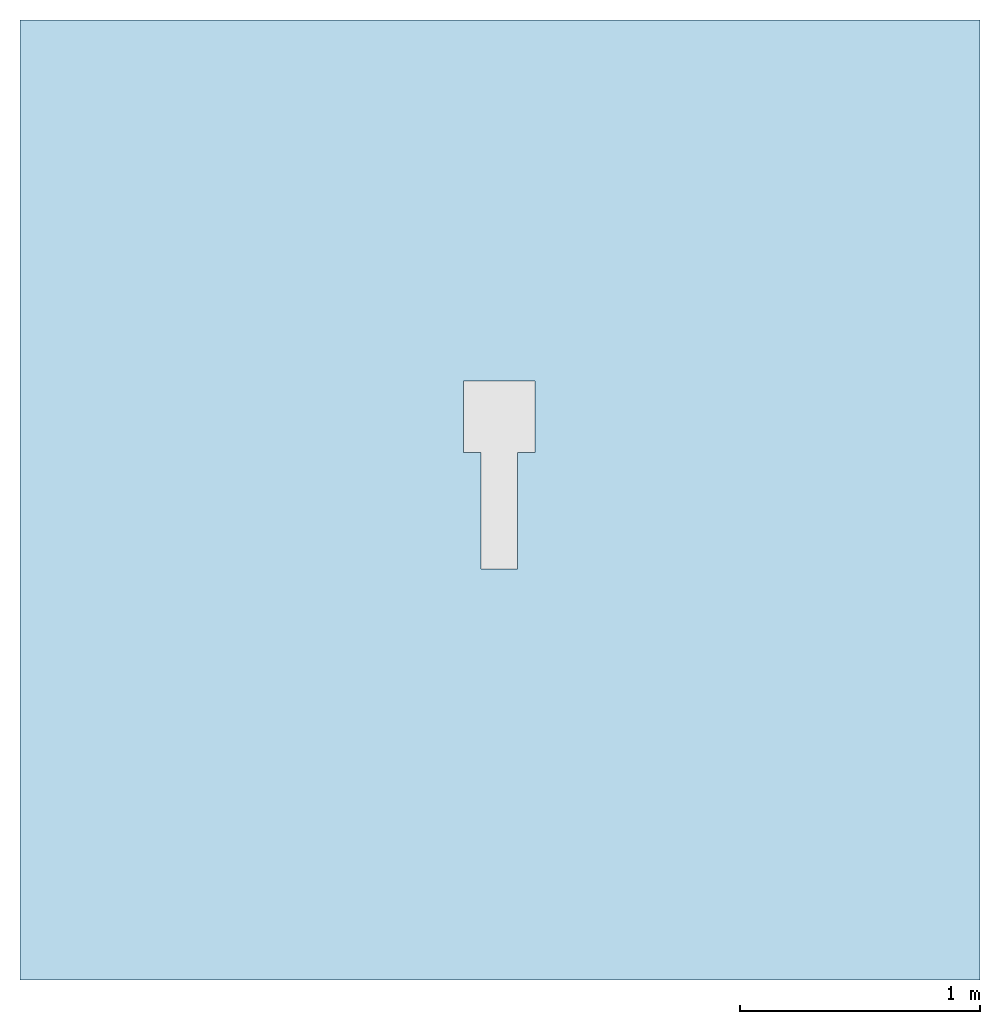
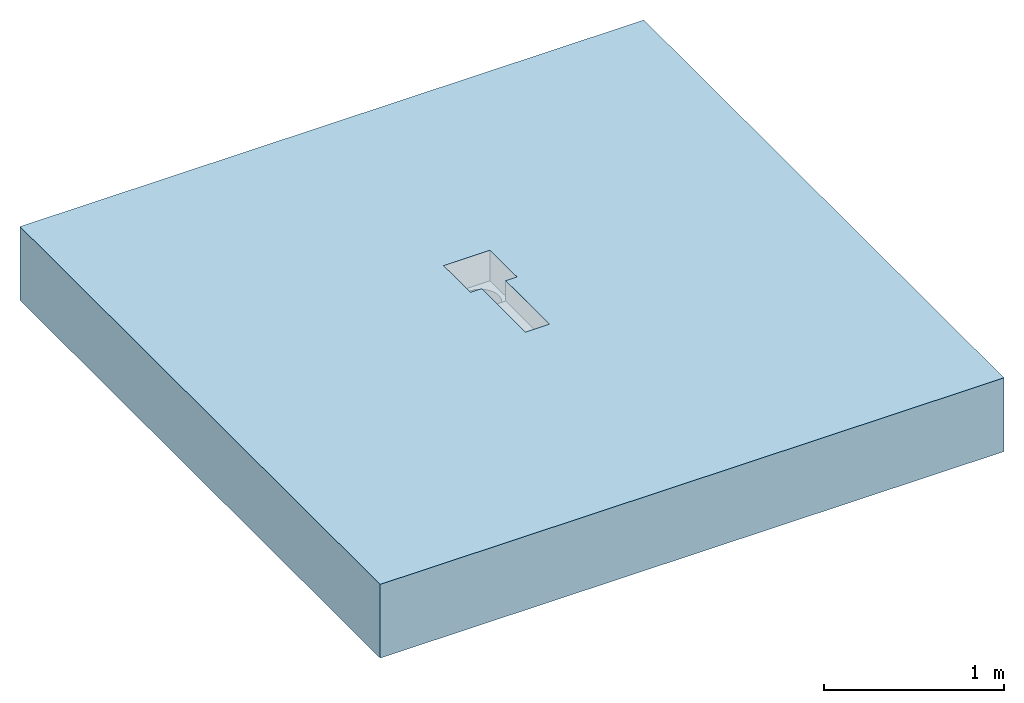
# One storey, incomplete: 1 slab, 1 opening.
"""IFC2X3 building model written with IfcOpenShell, lengths in millimetres."""

from ifc_helpers import new_model, entity, si_unit, converted_unit, direction, frame, frame_2d, origin, place, context, subcontext, project, spatial, rectangle, extrude, faceted_brep, material, layer, layer_set, layer_usage, element, save


model = new_model("IFC2X3")

# Units and contexts
model_context = context("Model", 3, precision=1e-06, world=origin(), true_north=direction((2.0, 6.12303176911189e-17, 1.0)))
context_of_model = context(None, 3, precision=1e-06, world=origin(), true_north=direction((2.0, 6.12303176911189e-17, 1.0)))
body_context = subcontext(model_context, "Body", "Model", "MODEL_VIEW")
ifc_project = project(units=[si_unit("LENGTHUNIT", "METRE", prefix="MILLI"), si_unit("AREAUNIT", "SQUARE_METRE", prefix="MILLI"), si_unit("VOLUMEUNIT", "CUBIC_METRE", prefix="MILLI"), converted_unit("PLANEANGLEUNIT", "DEGREE", entity("IfcRatioMeasure", 0.0174532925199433), si_unit("PLANEANGLEUNIT", "RADIAN"), dimensions=[0, 0, 0, 0, 0, 0, 0]), si_unit("TIMEUNIT", "SECOND")], contexts=[model_context, context_of_model])

# Site, building, storey
site_placement = place(None, origin())
site = spatial("IfcSite", under=ifc_project, at=site_placement, Name="Default", CompositionType="ELEMENT")
building_placement = place(site_placement, origin())
building = spatial("IfcBuilding", under=site, at=building_placement, CompositionType="ELEMENT")
storey_placement = place(building_placement, origin())
storey = spatial("IfcBuildingStorey", under=building, at=storey_placement, Name="Level 1", CompositionType="ELEMENT", Elevation=0.0)

# Slab, opening
ifc_material = material(Name="Concrete, Broom Finish")
ifc_layer = layer(ifc_material, 500.0)
ifc_layer_set = layer_set([ifc_layer], Name="Floor:Generic Floor - 500mm")
ifc_layer_usage = layer_usage(ifc_layer_set, "AXIS3", "POSITIVE", 0.0)
slab_placement = place(storey_placement, origin())
slab = element("IfcSlab", 1, at=slab_placement, inside=storey, material=ifc_layer_usage, Name="Floor:Generic Floor - 500mm", ObjectType="Floor:Generic Floor - 500mm", PredefinedType="FLOOR", context=body_context, shape_type="SweptSolid", body=[
    extrude(rectangle(XDim=4000.0, YDim=4000.0, at=frame_2d((0.0, 0.0), x_axis=(-1.0, 0.0))), frame((-419.114478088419, -735.273497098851, 0.0), z_axis=(0.0, 0.0, -1.0), x_axis=(-1.0, 0.0, 0.0)), (0.0, 0.0, 1.0), 500.0),
])
opening_placement = place(slab_placement, frame((-571.042058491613, -1023.16245801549, -438.0)))
element("IfcOpeningElement", 2, at=opening_placement, cuts=slab, ObjectType="Recess", context=body_context, shape_type="Brep", body=[
    faceted_brep([(225.499999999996, 0.0, 438.0), (225.499999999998, 0.0, 300.200000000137), (72.5000000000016, 0.0, 300.200000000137), (72.5000000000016, 0.0, 438.0), (225.499999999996, 486.0, 438.0), (225.499999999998, 486.0, 300.200000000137), (72.5000000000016, 486.0, 300.200000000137), (72.5000000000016, 486.0, 438.0), (0.0, 784.0, 438.0), (298.0, 784.0, 438.0), (298.0, 486.0, 438.0), (0.0, 486.0, 438.0), (33.0889008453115, 666.058285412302, 231.750000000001), (45.0769515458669, 695.0, 231.750000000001), (0.0, 784.0, 231.750000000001), (64.1471862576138, 719.852813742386, 231.750000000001), (29.0, 635.0, 231.750000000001), (117.941714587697, 750.911099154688, 231.750000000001), (149.0, 755.0, 231.750000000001), (89.0, 738.923048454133, 231.750000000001), (298.0, 784.0, 231.750000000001), (33.0889008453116, 603.941714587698, 231.750000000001), (0.0, 486.0, 231.750000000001), (45.076951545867, 575.0, 231.750000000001), (64.1471862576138, 550.147186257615, 231.750000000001), (117.941714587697, 519.088900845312, 231.750000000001), (89.0, 531.076951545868, 231.750000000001), (149.0, 515.0, 231.750000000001), (180.058285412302, 750.911099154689, 231.750000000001), (209.0, 738.923048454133, 231.750000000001), (233.852813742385, 719.852813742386, 231.750000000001), (264.911099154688, 666.058285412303, 231.750000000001), (252.923048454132, 695.0, 231.750000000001), (269.0, 635.0, 231.750000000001), (298.0, 486.0, 231.750000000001), (209.0, 531.076951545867, 231.750000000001), (180.058285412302, 519.088900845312, 231.750000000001), (264.911099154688, 603.941714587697, 231.750000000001), (252.923048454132, 575.0, 231.750000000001), (233.852813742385, 550.147186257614, 231.750000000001), (180.058285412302, 750.911099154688, 0.0), (149.0, 755.0, 0.0), (233.852813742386, 719.852813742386, 0.0), (209.0, 738.923048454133, 0.0), (264.911099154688, 666.058285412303, 0.0), (252.923048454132, 695.0, 0.0), (45.0769515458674, 695.0, 0.0), (29.0, 635.0, 0.0), (64.1471862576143, 719.852813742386, 0.0), (89.0, 738.923048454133, 0.0), (117.941714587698, 750.911099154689, 0.0), (33.0889008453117, 666.058285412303, 0.0), (45.076951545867, 575.0, 0.0), (264.911099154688, 603.941714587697, 0.0), (64.1471862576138, 550.147186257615, 0.0), (252.923048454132, 575.0, 0.0), (233.852813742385, 550.147186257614, 0.0), (180.058285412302, 519.088900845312, 0.0), (209.0, 531.076951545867, 0.0), (33.0889008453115, 603.941714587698, 0.0), (117.941714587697, 519.088900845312, 0.0), (149.0, 515.0, 0.0), (89.0, 531.076951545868, 0.0), (269.0, 635.0, 0.0)], [[[0, 1, 2]], [[2, 3, 0]], [[1, 4, 5]], [[4, 1, 0]], [[1, 5, 6]], [[6, 2, 1]], [[2, 6, 7]], [[7, 3, 2]], [[8, 9, 4]], [[9, 10, 4]], [[7, 11, 8]], [[0, 3, 7]], [[7, 4, 0]], [[8, 4, 7]], [[12, 13, 14]], [[15, 14, 13]], [[16, 12, 14]], [[14, 17, 18]], [[14, 15, 19]], [[14, 19, 17]], [[18, 20, 14]], [[21, 16, 22]], [[14, 22, 16]], [[23, 21, 22]], [[22, 24, 23]], [[22, 25, 26]], [[22, 26, 24]], [[27, 25, 22]], [[20, 28, 29]], [[20, 29, 30]], [[31, 20, 32]], [[30, 32, 20]], [[20, 31, 33]], [[33, 34, 20]], [[20, 18, 28]], [[34, 35, 36]], [[34, 36, 27]], [[34, 37, 38]], [[35, 34, 39]], [[38, 39, 34]], [[34, 33, 37]], [[22, 34, 27]], [[9, 14, 20]], [[14, 9, 8]], [[9, 20, 34]], [[34, 10, 9]], [[6, 5, 34]], [[10, 34, 5]], [[11, 6, 22]], [[34, 22, 6]], [[5, 4, 10]], [[6, 11, 7]], [[11, 22, 14]], [[14, 8, 11]], [[40, 41, 42]], [[43, 40, 42]], [[44, 45, 42]], [[46, 42, 41]], [[44, 42, 47]], [[48, 46, 49]], [[41, 50, 49]], [[51, 47, 46]], [[46, 41, 49]], [[46, 47, 42]], [[47, 52, 44]], [[53, 44, 54]], [[55, 53, 56]], [[53, 57, 58]], [[56, 53, 58]], [[57, 53, 54]], [[44, 52, 54]], [[52, 47, 59]], [[60, 61, 62]], [[54, 62, 61]], [[57, 54, 61]], [[44, 53, 63]], [[52, 59, 21]], [[52, 23, 54]], [[60, 62, 26]], [[24, 62, 54]], [[61, 60, 25]], [[47, 16, 59]], [[16, 21, 59]], [[21, 23, 52]], [[23, 24, 54]], [[62, 24, 26]], [[26, 25, 60]], [[25, 27, 61]], [[58, 57, 36]], [[58, 35, 56]], [[53, 55, 38]], [[39, 55, 56]], [[63, 53, 37]], [[27, 36, 57]], [[36, 35, 58]], [[35, 39, 56]], [[39, 38, 55]], [[53, 38, 37]], [[37, 33, 63]], [[61, 27, 57]], [[31, 44, 63]], [[40, 43, 29]], [[42, 30, 43]], [[40, 28, 41]], [[33, 31, 63]], [[45, 44, 31]], [[32, 45, 31]], [[32, 42, 45]], [[32, 30, 42]], [[43, 30, 29]], [[29, 28, 40]], [[28, 18, 41]], [[49, 50, 17]], [[49, 19, 48]], [[51, 46, 13]], [[15, 46, 48]], [[47, 51, 12]], [[18, 17, 50]], [[17, 19, 49]], [[19, 15, 48]], [[15, 13, 46]], [[51, 13, 12]], [[12, 16, 47]], [[41, 18, 50]]]),
])

save(model, "model.ifc")
